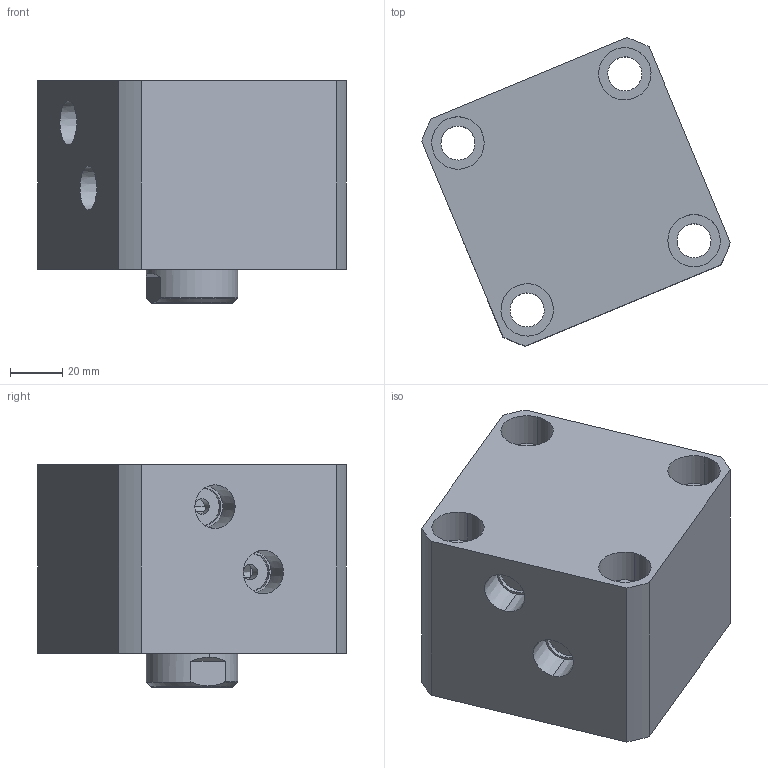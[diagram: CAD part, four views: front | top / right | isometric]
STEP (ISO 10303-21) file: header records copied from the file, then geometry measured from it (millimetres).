
FILE_DESCRIPTION (( 'STEP AP214' ), '1' );
FILE_NAME ('chtb-sd63x5n_asm.STEP', '2018-05-09T01:15:59', ( 'Windows' ), ( 'Microsoft' ), 'SwSTEP 2.0', 'SolidWorks 2015', '' );
FILE_SCHEMA (( 'AUTOMOTIVE_DESIGN' ));
Length unit declared in the file: millimetre
Products named in the file (4): CHTB63X5NHSG; CHTB63X5NBT; CHTB-63QG; chtb-sd63x5n_asm
Assembly tree (3 placements, depth 2):
  chtb-sd63x5n_asm
    CHTB-63QG
    CHTB63X5NBT
    CHTB63X5NHSG
Bounding box: 117.81 x 117.81 x 85 mm (x, y, z)
Volume: 560311.9 mm3; surface area: 107091.2 mm2
Topology: 3 solids, 3 shells, 165 faces, 465 edges, 318 vertices
Faces by surface type: cylinder 101, plane 33, bspline 12, cone 12, torus 7
Entity records: 17638 total; most frequent: CARTESIAN_POINT 13505, ORIENTED_EDGE 918, DIRECTION 719, EDGE_CURVE 459, VERTEX_POINT 318, AXIS2_PLACEMENT_3D 291, EDGE_LOOP 197, ADVANCED_FACE 165
